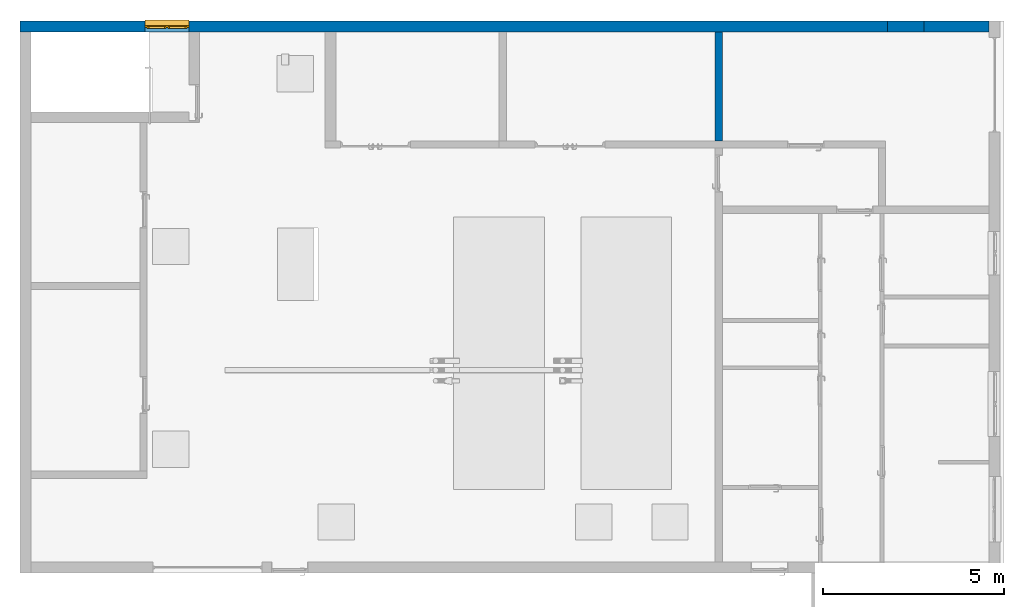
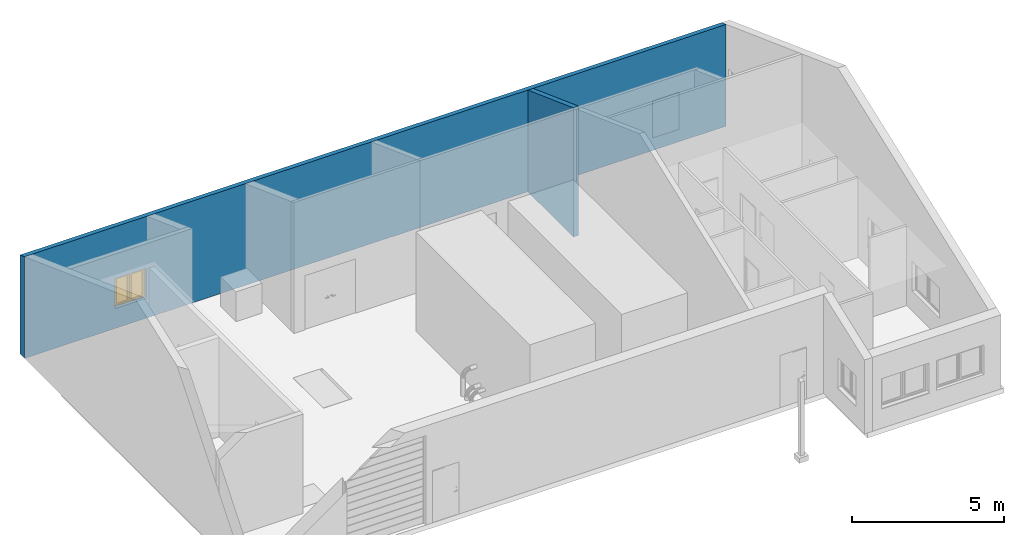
# One storey, part 17 of 23: 3 walls, 1 window, 1 opening.
"""IFC2X3 building model written with IfcOpenShell, lengths in millimetres."""

from ifc_helpers import new_model, entity, si_unit, converted_unit, direction, frame, frame_2d, origin, origin_2d_with_axis, place, context, subcontext, project, spatial, polyline, rectangle, outline, extrude, clip, bounded_halfspace, source, transform, mapped, material, material_list, layer, layer_set, layer_usage, type_object, type_shapes, element, fill, save


model = new_model("IFC2X3")

# Units and contexts
model_context = context("Model", 3, precision=0.01, world=origin(), true_north=direction((6.123031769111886e-17, 1.0)))
body_context = subcontext(model_context, "Body", "Model", "MODEL_VIEW")
ifc_project = project(units=[si_unit("LENGTHUNIT", "METRE", prefix="MILLI"), converted_unit("PLANEANGLEUNIT", "DEGREE", entity("IfcPlaneAngleMeasure", 0.017453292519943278), si_unit("PLANEANGLEUNIT", "RADIAN"), dimensions=[0, 0, 0, 0, 0, 0, 0]), si_unit("AREAUNIT", "SQUARE_METRE")], contexts=[model_context])

# Site, building, storey
site_placement = place(None, frame((7776.576483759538, 118.3519876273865, 0.0)))
site = spatial("IfcSite", under=ifc_project, at=site_placement, Name="Default", CompositionType="ELEMENT")
building_placement = place(site_placement, origin())
building = spatial("IfcBuilding", under=site, at=building_placement, Name="Bygning (endres i Project Information)", CompositionType="ELEMENT")
storey_placement = place(building_placement, frame((0.0, 0.0, 19000.0)))
storey = spatial("IfcBuildingStorey", under=building, at=storey_placement, Name="Plan 01", CompositionType="ELEMENT", Elevation=19000.0)

# Wall, opening, window
ifc_material_1 = material(Name="Default Wall")
ifc_layer_1 = layer(ifc_material_1, 300.0)
ifc_layer_set_1 = layer_set([ifc_layer_1], Name="Basic Wall:Generic - 300mm")
ifc_layer_usage_1 = layer_usage(ifc_layer_set_1, "AXIS2", "NEGATIVE", 149.99999999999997)
wall_type_1 = type_object("IfcWallType", Name="Basic Wall:Generic - 300mm", PredefinedType="STANDARD", material=ifc_layer_set_1)
wall_1_placement = place(storey_placement, frame((39574.001374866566, 34447.757305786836, 0.0), z_axis=(0.0, 0.0, 1.0), x_axis=(-1.0, 0.0, 0.0)))
wall_1 = element("IfcWallStandardCase", 1, at=wall_1_placement, inside=storey, type_object=wall_type_1, material=ifc_layer_usage_1, Name="Basic Wall:Generic - 300mm", ObjectType="Basic Wall:Generic - 300mm", context=body_context, shape_type="Clipping", body=[
    clip(extrude(rectangle(XDim=26700.000000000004, YDim=300.00000000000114, at=frame_2d((13350.000000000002, 1.2647660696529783e-12), x_axis=(-1.0, 0.0))), origin(), (0.0, 0.0, 1.0), 4094.4785276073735), bounded_halfspace(frame((0.0, -150.0, 3984.049079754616), z_axis=(0.0, -0.34543854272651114, 0.9384413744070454), x_axis=(1.0, 0.0, 0.0)), False, frame((0.0, -150.0, 3984.049079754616)), polyline([(0.0, 0.0), (26700.0, 0.0), (26700.0, 300.0), (26400.0, 300.0), (22050.0, 300.0), (21750.0, 300.0), (18300.0, 300.0), (18000.0, 300.0), (13500.0, 300.0), (13300.0, 300.0), (7550.0, 300.0), (7350.0, 300.0), (0.0, 300.0), (0.0, 0.0)]))),
])
opening_placement = place(wall_1_placement, frame((23250.0, 150.0, 800.0)))
opening = element("IfcOpeningElement", 2, at=opening_placement, cuts=wall_1, Name="Awning Casement double:1200/1200:1", ObjectType="Opening", context=body_context, shape_type="SweptSolid", body=[
    extrude(rectangle(XDim=1199.999999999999, YDim=1199.9999999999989, at=frame_2d((600.0, 600.0000000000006), x_axis=(1.0, 0.0))), frame((0.0, 0.0, 0.0), z_axis=(0.0, -1.0, 0.0), x_axis=(0.0, 0.0, 1.0)), (0.0, 0.0, 1.0), 299.99999999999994),
])
ifc_material_2 = material(Name="Glass")
ifc_material_3 = material(Name="Default Frame")
ifc_material_4 = material(Name="Default Sill")
ifc_material_list = material_list([ifc_material_2, ifc_material_3, ifc_material_4])
window_style = type_object("IfcWindowStyle", Name="Awning Casement double:1200/1200", ConstructionType="NOTDEFINED", OperationType="DOUBLE_PANEL_VERTICAL", ParameterTakesPrecedence=False, Sizeable=False, material=ifc_material_list)
shared_shape = source(origin(), body_context, "Body", "SweptSolid", [
    extrude(rectangle(XDim=1.000000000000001, YDim=425.00000000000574, at=origin_2d_with_axis()), frame((887.500000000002, 125.0, 100.0), z_axis=(0.0, 0.0, 1.0), x_axis=(0.0, 1.0, 0.0)), (0.0, 0.0, 1.0), 999.9999999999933),
    extrude(rectangle(XDim=1.000000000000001, YDim=424.99999999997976, at=frame_2d((0.0, 4.263256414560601e-14), x_axis=(1.0, 0.0))), frame((312.5000000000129, 125.0, 100.0), z_axis=(0.0, 0.0, 1.0), x_axis=(0.0, 1.0, 0.0)), (0.0, 0.0, 1.0), 999.999999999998),
    extrude(rectangle(XDim=50.00000000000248, YDim=50.00000000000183, at=origin_2d_with_axis()), frame((600.0, 150.50000000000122, 50.0), z_axis=(0.0, 0.0, 1.0), x_axis=(0.0, 1.0, 0.0)), (0.0, 0.0, 1.0), 1099.9999999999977),
    extrude(outline(polyline([(-550.0, -262.50000000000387), (550.0, -262.50000000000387), (550.0, 262.50000000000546), (-550.0, 262.50000000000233), (-550.0, -262.50000000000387)]), holes=[polyline([(-500.0, -212.49999999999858), (-500.0, 212.5000000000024), (500.0, 212.50000000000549), (500.0, -212.49999999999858), (-500.0, -212.49999999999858)])]), frame((887.5000000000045, 100.49999999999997, 600.0), z_axis=(0.0, 1.0, 0.0), x_axis=(0.0, 0.0, -1.0)), (0.0, 0.0, 1.0), 49.5),
    extrude(outline(polyline([(-550.0, -262.4999999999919), (550.0, -262.4999999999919), (550.0, 262.4999999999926), (-550.0, 262.49999999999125), (-550.0, -262.4999999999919)]), holes=[polyline([(-500.0, -212.49999999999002), (-500.0, 212.49999999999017), (500.0, 212.4999999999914), (500.0, -212.49999999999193), (-500.0, -212.49999999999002)])]), frame((312.5000000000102, 100.49999999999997, 600.0), z_axis=(0.0, 1.0, 0.0), x_axis=(0.0, 0.0, -1.0)), (0.0, 0.0, 1.0), 49.5),
    extrude(outline(polyline([(-600.0, -600.0), (600.0, -600.0), (600.0, 600.0), (-600.0, 600.0), (-600.0, -600.0)]), holes=[polyline([(-550.0, -550.0), (-550.0, 550.0), (550.0, 550.0), (550.0, -550.0), (-550.0, -550.0)])]), frame((600.0, 125.49999999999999, 600.0), z_axis=(0.0, 1.0, 0.0), x_axis=(0.0, 0.0, -1.0)), (0.0, 0.0, 1.0), 50.00000000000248),
    extrude(rectangle(XDim=154.49999999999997, YDim=1199.9999999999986, at=frame_2d((-1.4210854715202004e-14, 0.0), x_axis=(1.0, 0.0))), frame((600.0, 252.74999999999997, 0.0), z_axis=(0.0, 0.0, 1.0), x_axis=(0.0, 1.0, 0.0)), (0.0, 0.0, 1.0), 24.999999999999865),
])
type_shapes(window_style, [shared_shape])
window_placement = place(opening_placement, frame((0.0, 0.0, 0.0), z_axis=(0.0, 0.0, 1.0), x_axis=(-1.0, 0.0, 0.0)))
window = element("IfcWindow", 3, at=window_placement, inside=storey, type_object=window_style, material=ifc_material_list, Name="Awning Casement double:1200/1200", ObjectType="Awning Casement double:1200/1200", OverallHeight=1200.0, OverallWidth=1199.999999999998, context=body_context, shape_type="MappedRepresentation", body=[
    mapped(shared_shape, transform((0.0, 0.0, 0.0), scale=1.0)),
])
fill(opening, window)

# Walls
ifc_layer_2 = layer(ifc_material_1, 200.0)
ifc_layer_set_2 = layer_set([ifc_layer_2], Name="Basic Wall:Generic - 200mm")
ifc_layer_usage_2 = layer_usage(ifc_layer_set_2, "AXIS2", "NEGATIVE", 100.0)
wall_type_2 = type_object("IfcWallType", Name="Basic Wall:Generic - 200mm", PredefinedType="STANDARD", material=ifc_layer_set_2)
wall_2_placement = place(storey_placement, frame((32124.001374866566, 31297.757305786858, 0.0), z_axis=(0.0, 0.0, 1.0), x_axis=(0.0, 1.0, 0.0)))
element("IfcWallStandardCase", 4, at=wall_2_placement, inside=storey, type_object=wall_type_2, material=ifc_layer_usage_2, Name="Basic Wall:Generic - 200mm", ObjectType="Basic Wall:Generic - 200mm", context=body_context, shape_type="Clipping", body=[
    clip(extrude(rectangle(XDim=3000.0000000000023, YDim=199.99999999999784, at=frame_2d((1500.0000000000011, 3.126388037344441e-13), x_axis=(-1.0, 0.0))), origin(), (0.0, 0.0, 1.0), 5198.773006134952), bounded_halfspace(frame((0.0, -100.0, 5198.7730061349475), z_axis=(0.34543854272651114, 0.0, 0.9384413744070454), x_axis=(0.0, 1.0, 0.0)), False, frame((0.0, -100.0, 5198.7730061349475)), polyline([(0.0, 0.0), (3000.0, 0.0), (3000.0, 200.0), (0.0, 200.0), (0.0, 0.0)]))),
])
ifc_material_5 = material(Name="SS 2333 Rustfritt stål - sveiste rør")
ifc_layer_3 = layer(ifc_material_5, 300.0)
ifc_layer_set_3 = layer_set([ifc_layer_3], Name="Basic Wall:Generic Luft - 100mm 2")
ifc_layer_usage_3 = layer_usage(ifc_layer_set_3, "AXIS2", "NEGATIVE", 150.0)
wall_type_3 = type_object("IfcWallType", Name="Basic Wall:Generic Luft - 100mm 2", PredefinedType="STANDARD", material=ifc_layer_set_3)
wall_3_placement = place(storey_placement, frame((37774.00137486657, 34447.75730578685, 500.0), z_axis=(0.0, 0.0, 1.0), x_axis=(-1.0, 0.0, 0.0)))
element("IfcWallStandardCase", 5, at=wall_3_placement, inside=storey, type_object=wall_type_3, material=ifc_layer_usage_3, Name="Basic Wall:Generic Luft - 100mm 2", ObjectType="Basic Wall:Generic Luft - 100mm 2", context=body_context, shape_type="SweptSolid", body=[
    extrude(rectangle(XDim=999.999999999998, YDim=300.00000000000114, at=frame_2d((499.999999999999, -2.5579538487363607e-13), x_axis=(-1.0, 0.0))), origin(), (0.0, 0.0, 1.0), 1500.0000000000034),
])

save(model, "model.ifc")
